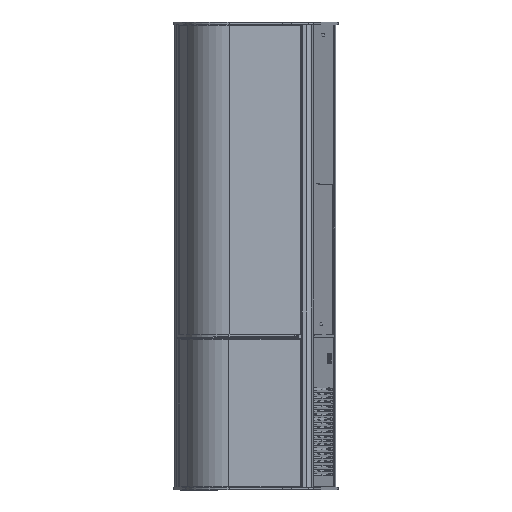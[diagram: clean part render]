
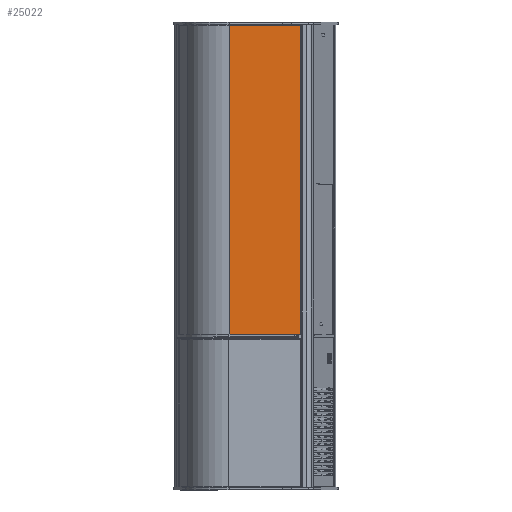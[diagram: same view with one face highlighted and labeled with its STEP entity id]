
A CAD part, top view. The second image highlights one B-rep face of the part: STEP entity #25022.
In plain terms, the highlighted planar face has unit normal (0.009, 0, 1) as drawn and (1, 0, 0) by its records, which use the part's own axes.
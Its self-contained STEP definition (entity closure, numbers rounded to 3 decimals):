
#1550=LINE('',#37692,#4521);
#1551=LINE('',#37695,#4522);
#1552=LINE('',#37697,#4523);
#1553=LINE('',#37699,#4524);
#4521=VECTOR('',#30891,1000.);
#4522=VECTOR('',#30892,1000.);
#4523=VECTOR('',#30893,1000.);
#4524=VECTOR('',#30894,1000.);
#9212=ORIENTED_EDGE('',*,*,#14997,.T.);
#9213=ORIENTED_EDGE('',*,*,#14998,.T.);
#9214=ORIENTED_EDGE('',*,*,#14999,.F.);
#9215=ORIENTED_EDGE('',*,*,#15000,.T.);
#14997=EDGE_CURVE('',#18117,#18118,#1550,.T.);
#14998=EDGE_CURVE('',#18118,#18119,#1551,.T.);
#14999=EDGE_CURVE('',#18120,#18119,#1552,.T.);
#15000=EDGE_CURVE('',#18120,#18117,#1553,.T.);
#18117=VERTEX_POINT('',#37693);
#18118=VERTEX_POINT('',#37694);
#18119=VERTEX_POINT('',#37696);
#18120=VERTEX_POINT('',#37698);
#20750=EDGE_LOOP('',(#9212,#9213,#9214,#9215));
#22463=FACE_BOUND('',#20750,.T.);
#23874=PLANE('',#27228);
#25022=ADVANCED_FACE('',(#22463),#23874,.F.);
#27228=AXIS2_PLACEMENT_3D('',#37691,#30889,#30890);
#30889=DIRECTION('',(-1.,0.,0.));
#30890=DIRECTION('',(0.,0.,1.));
#30891=DIRECTION('',(0.,1.,0.));
#30892=DIRECTION('',(0.,0.,1.));
#30893=DIRECTION('',(0.,1.,0.));
#30894=DIRECTION('',(0.,0.,-1.));
#37691=CARTESIAN_POINT('',(155.706,-362.,-285.499));
#37692=CARTESIAN_POINT('',(155.706,-362.,-284.499));
#37693=CARTESIAN_POINT('',(155.706,-361.,-284.499));
#37694=CARTESIAN_POINT('',(155.706,361.,-284.499));
#37695=CARTESIAN_POINT('',(155.706,361.,-285.499));
#37696=CARTESIAN_POINT('',(155.706,361.,-118.454));
#37697=CARTESIAN_POINT('',(155.706,-362.,-118.454));
#37698=CARTESIAN_POINT('',(155.706,-361.,-118.454));
#37699=CARTESIAN_POINT('',(155.706,-361.,-285.499));
